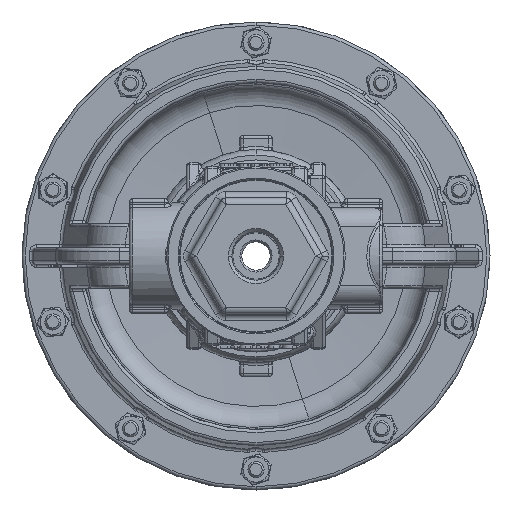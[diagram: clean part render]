
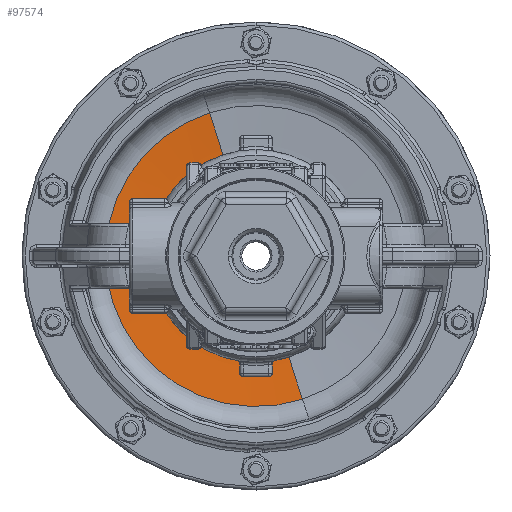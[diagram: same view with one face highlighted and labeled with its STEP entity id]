
A CAD part, front view. The second image highlights one B-rep face of the part: STEP entity #97574.
In plain terms, the highlighted toroidal (fillet/blend) face has major radius 5.756 mm and minor radius 758.429 mm.
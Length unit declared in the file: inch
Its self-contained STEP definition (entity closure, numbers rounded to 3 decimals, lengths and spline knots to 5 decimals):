
#19543 = CIRCLE ( 'NONE', #28568, 29.85941 ) ;
#19551 = CIRCLE ( 'NONE', #28565, 29.85941 ) ;
#19767 = TOROIDAL_SURFACE ( 'NONE', #30514, -0.22661, 29.85941 ) ;
#19787 = FACE_OUTER_BOUND ( 'NONE', #113960, .T. ) ;
#21850 = EDGE_CURVE ( 'NONE', #116341, #116304, #19551, .T. ) ;
#21854 = EDGE_CURVE ( 'NONE', #116340, #116279, #19543, .T. ) ;
#28565 = AXIS2_PLACEMENT_3D ( 'NONE', #62666, #62668, #62670 ) ;
#28568 = AXIS2_PLACEMENT_3D ( 'NONE', #62674, #62676, #62678 ) ;
#28884 = AXIS2_PLACEMENT_3D ( 'NONE', #77179, #77180, #77181 ) ;
#28889 = AXIS2_PLACEMENT_3D ( 'NONE', #77206, #77207, #77208 ) ;
#30514 = AXIS2_PLACEMENT_3D ( 'NONE', #31640, #31639, #31644 ) ;
#31639 = DIRECTION ( 'NONE',  ( 0., 1., 0. ) ) ;
#31640 = CARTESIAN_POINT ( 'NONE',  ( 0., -29.0558, 0. ) ) ;
#31644 = DIRECTION ( 'NONE',  ( 0., 0., 1. ) ) ;
#58952 = ORIENTED_EDGE ( 'NONE', *, *, #70246, .F. ) ;
#58954 = ORIENTED_EDGE ( 'NONE', *, *, #21854, .T. ) ;
#58957 = ORIENTED_EDGE ( 'NONE', *, *, #70240, .T. ) ;
#58962 = ORIENTED_EDGE ( 'NONE', *, *, #21850, .F. ) ;
#62666 = CARTESIAN_POINT ( 'NONE',  ( 0., -29.0558, -0.22661 ) ) ;
#62668 = DIRECTION ( 'NONE',  ( -1., 0., 0. ) ) ;
#62670 = DIRECTION ( 'NONE',  ( 0., 0., 1. ) ) ;
#62674 = CARTESIAN_POINT ( 'NONE',  ( 0., -29.0558, 0.22661 ) ) ;
#62676 = DIRECTION ( 'NONE',  ( 1., 0., 0. ) ) ;
#62678 = DIRECTION ( 'NONE',  ( 0., 0., -1. ) ) ;
#70240 = EDGE_CURVE ( 'NONE', #116279, #116304, #72968, .T. ) ;
#70246 = EDGE_CURVE ( 'NONE', #116340, #116341, #72982, .T. ) ;
#72968 = CIRCLE ( 'NONE', #28884, 0.5 ) ;
#72982 = CIRCLE ( 'NONE', #28889, 2.33566 ) ;
#77179 = CARTESIAN_POINT ( 'NONE',  ( 0., 0.79477, 0. ) ) ;
#77180 = DIRECTION ( 'NONE',  ( 0., 1., 0. ) ) ;
#77181 = DIRECTION ( 'NONE',  ( 0., 0., -1. ) ) ;
#77206 = CARTESIAN_POINT ( 'NONE',  ( 0., 0.69347, 0. ) ) ;
#77207 = DIRECTION ( 'NONE',  ( 0., 1., 0. ) ) ;
#77208 = DIRECTION ( 'NONE',  ( 0., 0., 1. ) ) ;
#97574 = ADVANCED_FACE ( 'NONE', ( #19787 ), #19767, .F. ) ;
#101214 = CARTESIAN_POINT ( 'NONE',  ( 0., 0.79477, -0.5 ) ) ;
#101238 = CARTESIAN_POINT ( 'NONE',  ( 0., 0.79477, 0.5 ) ) ;
#101274 = CARTESIAN_POINT ( 'NONE',  ( 0., 0.69347, -2.33566 ) ) ;
#101275 = CARTESIAN_POINT ( 'NONE',  ( 0., 0.69347, 2.33566 ) ) ;
#113960 = EDGE_LOOP ( 'NONE', ( #58952, #58954, #58957, #58962 ) ) ;
#116279 = VERTEX_POINT ( 'NONE', #101214 ) ;
#116304 = VERTEX_POINT ( 'NONE', #101238 ) ;
#116340 = VERTEX_POINT ( 'NONE', #101274 ) ;
#116341 = VERTEX_POINT ( 'NONE', #101275 ) ;
